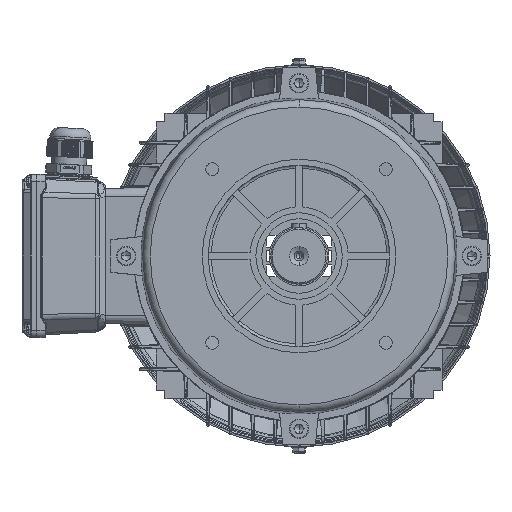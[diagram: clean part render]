
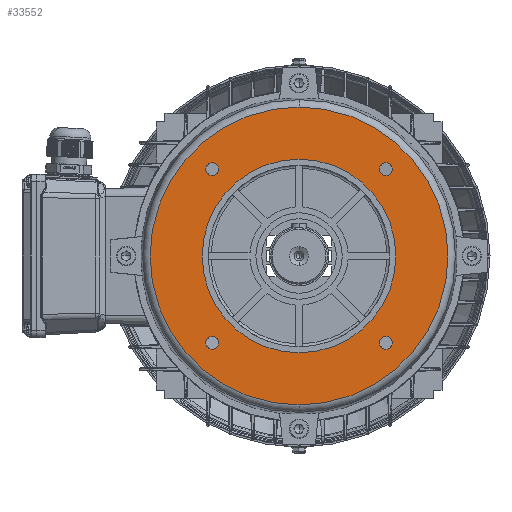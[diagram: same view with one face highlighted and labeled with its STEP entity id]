
A CAD part, left-side view. The second image highlights one B-rep face of the part: STEP entity #33552.
In plain terms, the highlighted planar face has unit normal (-1, 0, 0).
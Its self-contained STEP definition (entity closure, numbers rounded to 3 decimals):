
#380 = ORIENTED_EDGE ( 'NONE', *, *, #155440, .T. ) ;
#1042 = ORIENTED_EDGE ( 'NONE', *, *, #86267, .T. ) ;
#4413 = CARTESIAN_POINT ( 'NONE',  ( -22., 0., 0. ) ) ;
#12436 = AXIS2_PLACEMENT_3D ( 'NONE', #121815, #34035, #45695 ) ;
#15318 = CIRCLE ( 'NONE', #138757, 65. ) ;
#16206 = EDGE_CURVE ( 'NONE', #153678, #60324, #133585, .T. ) ;
#17311 = CARTESIAN_POINT ( 'NONE',  ( -22., 58.336, -54.086 ) ) ;
#18543 = VERTEX_POINT ( 'NONE', #82865 ) ;
#24548 = FACE_OUTER_BOUND ( 'NONE', #90824, .T. ) ;
#25294 = CIRCLE ( 'NONE', #104994, 4.25 ) ;
#25445 = AXIS2_PLACEMENT_3D ( 'NONE', #69931, #31524, #108778 ) ;
#25620 = EDGE_CURVE ( 'NONE', #60324, #153678, #162095, .T. ) ;
#27361 = CIRCLE ( 'NONE', #79688, 100. ) ;
#28642 = CIRCLE ( 'NONE', #127624, 4.25 ) ;
#28898 = DIRECTION ( 'NONE',  ( 1., 0., 0. ) ) ;
#28911 = AXIS2_PLACEMENT_3D ( 'NONE', #127911, #139564, #63516 ) ;
#29101 = DIRECTION ( 'NONE',  ( 0., 0., 1. ) ) ;
#31524 = DIRECTION ( 'NONE',  ( 1., 0., 0. ) ) ;
#32031 = EDGE_LOOP ( 'NONE', ( #52028, #155101 ) ) ;
#32032 = CIRCLE ( 'NONE', #116844, 4.25 ) ;
#33552 = ADVANCED_FACE ( 'NONE', ( #135856, #90121, #92133, #58352, #24548, #155599 ), #122982, .F. ) ;
#34035 = DIRECTION ( 'NONE',  ( 1., 0., 0. ) ) ;
#35969 = EDGE_CURVE ( 'NONE', #111913, #36971, #32032, .T. ) ;
#36399 = DIRECTION ( 'NONE',  ( 0., 0., -1. ) ) ;
#36913 = CARTESIAN_POINT ( 'NONE',  ( -22., 58.336, 54.086 ) ) ;
#36971 = VERTEX_POINT ( 'NONE', #36913 ) ;
#41040 = ORIENTED_EDGE ( 'NONE', *, *, #16206, .T. ) ;
#41143 = CARTESIAN_POINT ( 'NONE',  ( -22., 58.336, -62.586 ) ) ;
#41199 = VERTEX_POINT ( 'NONE', #17311 ) ;
#41355 = EDGE_LOOP ( 'NONE', ( #52534, #140544 ) ) ;
#42094 = AXIS2_PLACEMENT_3D ( 'NONE', #147352, #95806, #96355 ) ;
#45695 = DIRECTION ( 'NONE',  ( 0., 0., -1. ) ) ;
#45911 = DIRECTION ( 'NONE',  ( 0., 0., 1. ) ) ;
#49502 = DIRECTION ( 'NONE',  ( 0., 0., -1. ) ) ;
#52028 = ORIENTED_EDGE ( 'NONE', *, *, #130133, .T. ) ;
#52534 = ORIENTED_EDGE ( 'NONE', *, *, #152842, .F. ) ;
#58352 = FACE_BOUND ( 'NONE', #135967, .T. ) ;
#60324 = VERTEX_POINT ( 'NONE', #133424 ) ;
#62220 = DIRECTION ( 'NONE',  ( 0., 0., -1. ) ) ;
#63304 = DIRECTION ( 'NONE',  ( 1., 0., 0. ) ) ;
#63516 = DIRECTION ( 'NONE',  ( 0., 0., -1. ) ) ;
#63546 = ORIENTED_EDGE ( 'NONE', *, *, #111585, .T. ) ;
#63576 = AXIS2_PLACEMENT_3D ( 'NONE', #73193, #135383, #45911 ) ;
#66226 = ORIENTED_EDGE ( 'NONE', *, *, #139218, .T. ) ;
#66684 = ORIENTED_EDGE ( 'NONE', *, *, #136141, .T. ) ;
#66783 = EDGE_CURVE ( 'NONE', #18543, #81992, #27361, .T. ) ;
#69721 = AXIS2_PLACEMENT_3D ( 'NONE', #136227, #74018, #49502 ) ;
#69931 = CARTESIAN_POINT ( 'NONE',  ( -22., -58.336, 58.336 ) ) ;
#73193 = CARTESIAN_POINT ( 'NONE',  ( -22., 0., 0. ) ) ;
#74018 = DIRECTION ( 'NONE',  ( 1., 0., 0. ) ) ;
#75296 = DIRECTION ( 'NONE',  ( 1., 0., 0. ) ) ;
#77079 = EDGE_LOOP ( 'NONE', ( #66684, #66226 ) ) ;
#79497 = DIRECTION ( 'NONE',  ( 0., 0., -1. ) ) ;
#79688 = AXIS2_PLACEMENT_3D ( 'NONE', #83529, #96867, #121833 ) ;
#79710 = DIRECTION ( 'NONE',  ( -1., 0., 0. ) ) ;
#80244 = CARTESIAN_POINT ( 'NONE',  ( -22., 0., 0. ) ) ;
#81992 = VERTEX_POINT ( 'NONE', #124699 ) ;
#82865 = CARTESIAN_POINT ( 'NONE',  ( -22., 0., -100. ) ) ;
#83529 = CARTESIAN_POINT ( 'NONE',  ( -22., 0., 0. ) ) ;
#84995 = VERTEX_POINT ( 'NONE', #149613 ) ;
#86267 = EDGE_CURVE ( 'NONE', #145135, #41199, #143220, .T. ) ;
#87801 = CARTESIAN_POINT ( 'NONE',  ( -22., 58.336, 58.336 ) ) ;
#90121 = FACE_BOUND ( 'NONE', #122360, .T. ) ;
#90824 = EDGE_LOOP ( 'NONE', ( #63546, #128781 ) ) ;
#92133 = FACE_BOUND ( 'NONE', #77079, .T. ) ;
#92496 = CARTESIAN_POINT ( 'NONE',  ( -22., 58.336, 62.586 ) ) ;
#95806 = DIRECTION ( 'NONE',  ( 1., 0., 0. ) ) ;
#96355 = DIRECTION ( 'NONE',  ( 0., 0., -1. ) ) ;
#96867 = DIRECTION ( 'NONE',  ( -1., 0., 0. ) ) ;
#97565 = VERTEX_POINT ( 'NONE', #120048 ) ;
#98221 = AXIS2_PLACEMENT_3D ( 'NONE', #4413, #118354, #143855 ) ;
#102350 = CIRCLE ( 'NONE', #98221, 65. ) ;
#103940 = CARTESIAN_POINT ( 'NONE',  ( -22., -58.336, 54.086 ) ) ;
#104994 = AXIS2_PLACEMENT_3D ( 'NONE', #117279, #28898, #79497 ) ;
#107665 = ORIENTED_EDGE ( 'NONE', *, *, #25620, .T. ) ;
#107856 = AXIS2_PLACEMENT_3D ( 'NONE', #87801, #63304, #62220 ) ;
#108778 = DIRECTION ( 'NONE',  ( 0., 0., -1. ) ) ;
#111585 = EDGE_CURVE ( 'NONE', #81992, #18543, #131509, .T. ) ;
#111913 = VERTEX_POINT ( 'NONE', #92496 ) ;
#113598 = DIRECTION ( 'NONE',  ( 0., 0., -1. ) ) ;
#115880 = VERTEX_POINT ( 'NONE', #123772 ) ;
#116844 = AXIS2_PLACEMENT_3D ( 'NONE', #164552, #151278, #113598 ) ;
#117279 = CARTESIAN_POINT ( 'NONE',  ( -22., -58.336, -58.336 ) ) ;
#118354 = DIRECTION ( 'NONE',  ( -1., 0., 0. ) ) ;
#120048 = CARTESIAN_POINT ( 'NONE',  ( -22., -58.336, -54.086 ) ) ;
#121815 = CARTESIAN_POINT ( 'NONE',  ( -22., 58.336, -58.336 ) ) ;
#121833 = DIRECTION ( 'NONE',  ( 0., 0., 1. ) ) ;
#122360 = EDGE_LOOP ( 'NONE', ( #41040, #107665 ) ) ;
#122982 = PLANE ( 'NONE',  #42094 ) ;
#123772 = CARTESIAN_POINT ( 'NONE',  ( -22., -58.336, -62.586 ) ) ;
#124699 = CARTESIAN_POINT ( 'NONE',  ( -22., 0., 100. ) ) ;
#124721 = CARTESIAN_POINT ( 'NONE',  ( -22., -58.336, -58.336 ) ) ;
#127624 = AXIS2_PLACEMENT_3D ( 'NONE', #124721, #75296, #36399 ) ;
#127911 = CARTESIAN_POINT ( 'NONE',  ( -22., -58.336, 58.336 ) ) ;
#128781 = ORIENTED_EDGE ( 'NONE', *, *, #66783, .T. ) ;
#130133 = EDGE_CURVE ( 'NONE', #36971, #111913, #147271, .T. ) ;
#131509 = CIRCLE ( 'NONE', #63576, 100. ) ;
#133424 = CARTESIAN_POINT ( 'NONE',  ( -22., -58.336, 62.586 ) ) ;
#133585 = CIRCLE ( 'NONE', #25445, 4.25 ) ;
#135383 = DIRECTION ( 'NONE',  ( -1., 0., 0. ) ) ;
#135856 = FACE_BOUND ( 'NONE', #32031, .T. ) ;
#135967 = EDGE_LOOP ( 'NONE', ( #1042, #380 ) ) ;
#136141 = EDGE_CURVE ( 'NONE', #115880, #97565, #25294, .T. ) ;
#136227 = CARTESIAN_POINT ( 'NONE',  ( -22., 58.336, -58.336 ) ) ;
#138757 = AXIS2_PLACEMENT_3D ( 'NONE', #80244, #79710, #29101 ) ;
#139218 = EDGE_CURVE ( 'NONE', #97565, #115880, #28642, .T. ) ;
#139340 = CARTESIAN_POINT ( 'NONE',  ( -22., 0., -65. ) ) ;
#139564 = DIRECTION ( 'NONE',  ( 1., 0., 0. ) ) ;
#140544 = ORIENTED_EDGE ( 'NONE', *, *, #144408, .F. ) ;
#143220 = CIRCLE ( 'NONE', #12436, 4.25 ) ;
#143855 = DIRECTION ( 'NONE',  ( 0., 0., 1. ) ) ;
#144408 = EDGE_CURVE ( 'NONE', #157467, #84995, #15318, .T. ) ;
#145135 = VERTEX_POINT ( 'NONE', #41143 ) ;
#147271 = CIRCLE ( 'NONE', #107856, 4.25 ) ;
#147352 = CARTESIAN_POINT ( 'NONE',  ( -22., 65., 0. ) ) ;
#149613 = CARTESIAN_POINT ( 'NONE',  ( -22., 0., 65. ) ) ;
#151278 = DIRECTION ( 'NONE',  ( 1., 0., 0. ) ) ;
#151303 = CIRCLE ( 'NONE', #69721, 4.25 ) ;
#152842 = EDGE_CURVE ( 'NONE', #84995, #157467, #102350, .T. ) ;
#153678 = VERTEX_POINT ( 'NONE', #103940 ) ;
#155101 = ORIENTED_EDGE ( 'NONE', *, *, #35969, .T. ) ;
#155440 = EDGE_CURVE ( 'NONE', #41199, #145135, #151303, .T. ) ;
#155599 = FACE_BOUND ( 'NONE', #41355, .T. ) ;
#157467 = VERTEX_POINT ( 'NONE', #139340 ) ;
#162095 = CIRCLE ( 'NONE', #28911, 4.25 ) ;
#164552 = CARTESIAN_POINT ( 'NONE',  ( -22., 58.336, 58.336 ) ) ;
